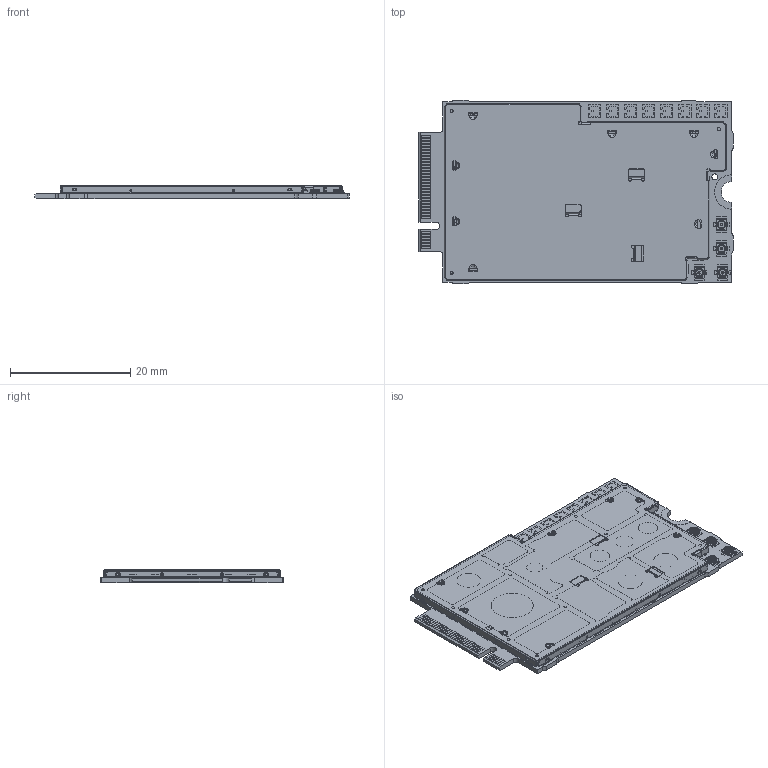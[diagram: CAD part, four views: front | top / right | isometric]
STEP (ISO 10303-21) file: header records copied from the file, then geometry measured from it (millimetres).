
FILE_DESCRIPTION((''),'2;1');
FILE_NAME('5304242_EM9190_PCA_CS_ASM','2023-07-05T15:09:03',('awicikowski'),(''),'CREO PARAMETRIC BY PTC INC, 2022124','CREO PARAMETRIC BY PTC INC, 2022124','');
FILE_SCHEMA(('CONFIG_CONTROL_DESIGN','SHAPE_APPEARANCE_LAYERS_GROUPS'));
Products named in the file (99): EM9190_5306361; 3017083; 3017246; 3016829; 3016895; 3016815; 3017082; 3017081; 3017080; 3017096; 3016797; 3500126; 3017376; 3016821; 3016918; 3016779; 3017266; 3401186; 3016373; 3016041; 3016038; 3016034; 3016035; 3016070; 3016072; 3016071; 3016067; 3016066; 3016068; 3016074; 3016277; 3015377; 3015502; 3015462; 3015469; 3015380; 3015493; 3015398; 3015478; 3015446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
Assembly tree (493 placements, depth 2):
  5304242_EM9190_PCA_CS_ASM
    EM9190_5306361
    3017083
    3017246
    3016829  x3
    3016895
    3016815  x2
    3017082
    3017081
    3017080
    3017096
    3016797  x2
    3500126  x2
    3017376
    3016821  x4
    3016918  x2
    3016779
    3017266  x6
    3401186  x2
    3016373
    3016041
    3016038  x2
    3016034  x2
    3016035
    3016070
    3016072
    3016071
    3016067
    3016066
    3016068
    3016074
    3016277
    3015377  x48
    3015502  x4
    3015462  x8
    3015469  x2
    3015380  x5
    3015493
    3015398  x5
    3015478
    3015446  x3
    3015414
    3015423  x3
    3017372  x2
    3016420
    3017373  x3
    3016008
    3016022  x11
    3016025  x49
    3016011
    3015993  x87
    3016021
    3016864  x19
    3015367  x18
    3100635  x43
    3015987
    3300465  x3
    3016233
    3017234
    3017079
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Bounding box: 52.25 x 30.5 x 2.17 mm (x, y, z)
Volume: 2111.6 mm3; surface area: 11184.5 mm2
Topology: 496 solids, 505 shells, 6296 faces, 14768 edges, 9680 vertices
Faces by surface type: plane 5289, cylinder 811, sphere 72, bspline 68, cone 40, torus 16
Entity records: 142215 total; most frequent: CARTESIAN_POINT 23527, DIRECTION 19422, ORIENTED_EDGE 18775, EDGE_CURVE 9413, VECTOR 7526, LINE 7526, PRESENTATION_STYLE_ASSIGNMENT 6208, VERTEX_POINT 6121
